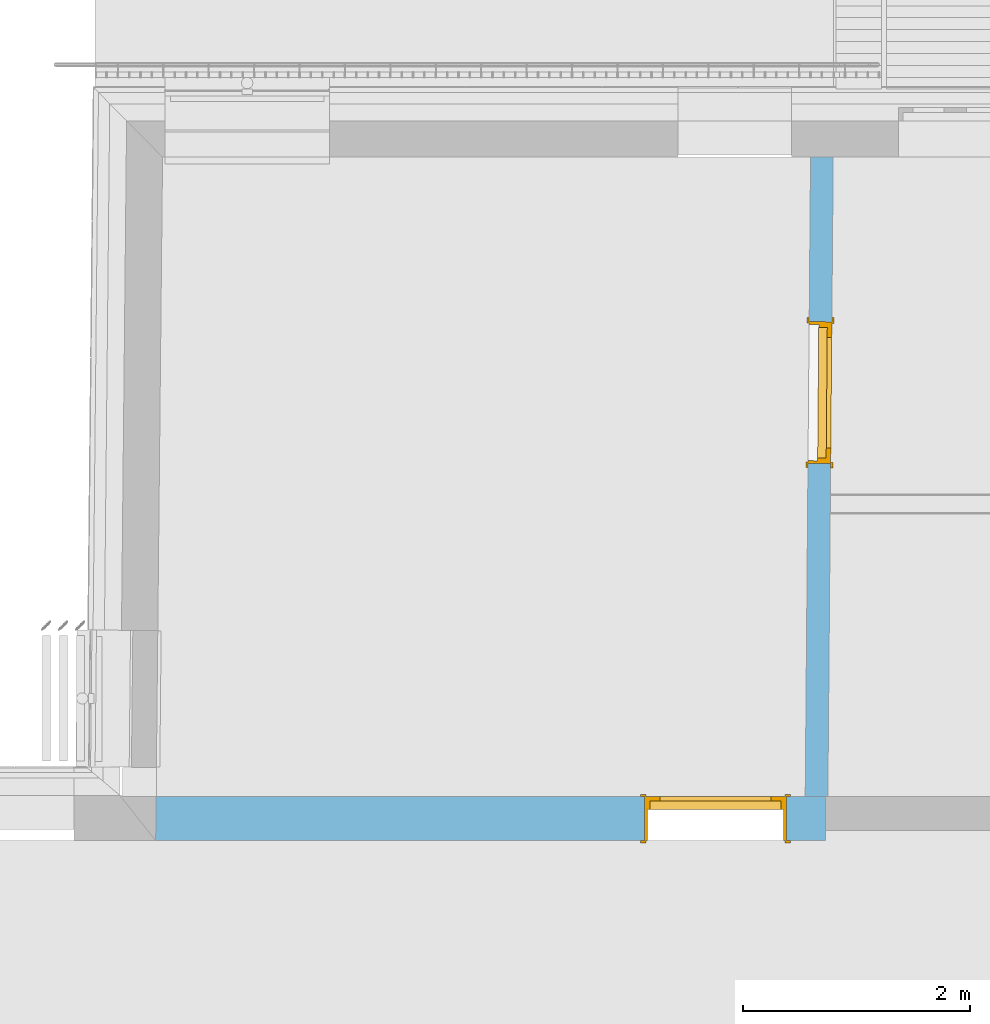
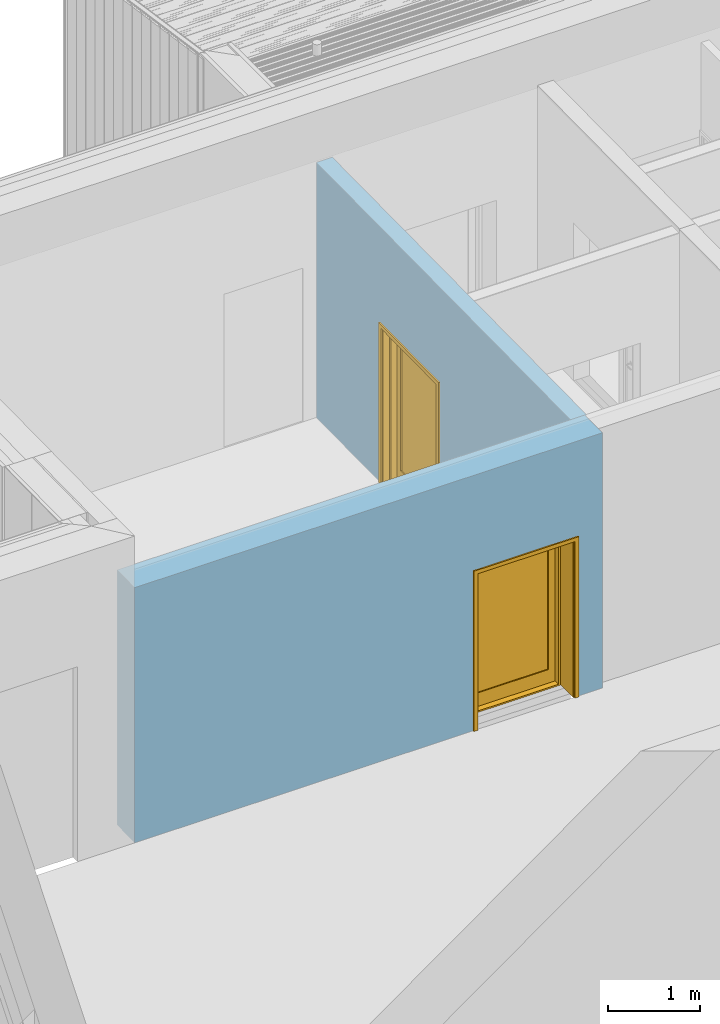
# One storey, part 90 of 418: 2 doors, 2 openings, plus 2 elements that do not belong to this part.
"""IFC2X3 building model written with IfcOpenShell, lengths in millimetres."""

from ifc_helpers import new_model, entity, si_unit, converted_unit, derived_unit, money_unit, direction, frame, origin_with_axes, origin_2d_with_axis, place, context, subcontext, project, spatial, polyline, rectangle, outline, extrude, open_shell, faceted_brep, surface_model, material, layer, layer_set, layer_usage, type_object, element, fill, save


model = new_model("IFC2X3")

# Units and contexts
model_context = context("Model", 3, precision=0.01, world=origin_with_axes(), true_north=direction((0.0, 1.0)))
body_context = subcontext(model_context, "Body", "Model", "MODEL_VIEW")
ifc_project = project(units=[si_unit("LENGTHUNIT", "METRE", prefix="MILLI"), si_unit("AREAUNIT", "SQUARE_METRE"), si_unit("VOLUMEUNIT", "CUBIC_METRE"), converted_unit("PLANEANGLEUNIT", "DEGREE", entity("IfcPlaneAngleMeasure", 0.0174532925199), si_unit("PLANEANGLEUNIT", "RADIAN"), dimensions=[0, 0, 0, 0, 0, 0, 0]), si_unit("SOLIDANGLEUNIT", "STERADIAN"), money_unit("EUR"), converted_unit("TIMEUNIT", "Year", entity("IfcTimeMeasure", 31556926.0), si_unit("TIMEUNIT", "SECOND"), dimensions=[0, 0, 1, 0, 0, 0, 0]), si_unit("MASSUNIT", "GRAM", prefix="KILO"), si_unit("THERMODYNAMICTEMPERATUREUNIT", "DEGREE_CELSIUS"), si_unit("LUMINOUSINTENSITYUNIT", "LUMEN"), si_unit("ENERGYUNIT", "JOULE", prefix="MEGA"), derived_unit("THERMALCONDUCTANCEUNIT", [(si_unit("POWERUNIT", "WATT"), 1), (si_unit("LENGTHUNIT", "METRE"), -1), (si_unit("THERMODYNAMICTEMPERATUREUNIT", "KELVIN"), -1)]), derived_unit("SPECIFICHEATCAPACITYUNIT", [(si_unit("ENERGYUNIT", "JOULE"), 1), (si_unit("MASSUNIT", "GRAM", prefix="KILO"), -1), (si_unit("THERMODYNAMICTEMPERATUREUNIT", "KELVIN"), -1)]), derived_unit("MASSDENSITYUNIT", [(si_unit("MASSUNIT", "GRAM", prefix="KILO"), 1), (si_unit("VOLUMEUNIT", "CUBIC_METRE"), -1)])], contexts=[model_context])

# Site, building, storey
site_placement = place(None, origin_with_axes())
site = spatial("IfcSite", under=ifc_project, at=site_placement, Name="Paldiski mnt 245/1, Tallinn, Harjumaa", CompositionType="COMPLEX")
building_placement = place(site_placement, origin_with_axes())
building = spatial("IfcBuilding", under=site, at=building_placement, Name="RKAS Hoone üldnimetus (kasutust iseloomustav) -> IFC Project Manager -> SOLIBRI", CompositionType="ELEMENT")
storey_placement = place(building_placement, origin_with_axes())
storey = spatial("IfcBuildingStorey", under=building, at=storey_placement, Name="Esimene korrus", CompositionType="ELEMENT", Elevation=0.0)

# Wall, opening, door
ifc_material = material(Name="Olemasolev silikaltsiitplokk")
ifc_layer_1 = layer(ifc_material, 390.0, ventilated="UNKNOWN")
ifc_layer_set_1 = layer_set([ifc_layer_1], Name="Olemasolev silikaltsiitplokk 390")
ifc_layer_usage_1 = layer_usage(ifc_layer_set_1, "AXIS2", "NEGATIVE", 0.0)
wall_type_1 = type_object("IfcWallType", Name="Olemasolev silikaltsiitplokk 390", PredefinedType="NOTDEFINED")
wall_1_placement = place(storey_placement, frame((-59386.0680847, 30139.8287244, 0.0), z_axis=(0.0, 0.0, 1.0), x_axis=(1.0, 0.0, 0.0)))
wall_1 = element("IfcWallStandardCase", 1, at=wall_1_placement, inside=storey, type_object=wall_type_1, material=ifc_layer_usage_1, Name="SS-02", context=body_context, shape_type="SweptSolid", body=[
    extrude(outline(polyline([(-3.93191533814, -390.0), (5896.06808466, -390.0), (5896.06808466, 0.0), (0.0, 0.0), (-3.93191533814, -390.0)])), origin_with_axes(), (0.0, 0.0, 1.0), 3400.80687192),
])
opening_1_placement = place(wall_1_placement, frame((4926.11364736, -1.13686837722e-10, 0.0), z_axis=(0.0, 0.0, 1.0), x_axis=(1.0, 0.0, 0.0)))
opening_1 = element("IfcOpeningElement", 2, at=opening_1_placement, cuts=wall_1, Name="SU-12v", context=body_context, shape_type="SweptSolid", body=[
    extrude(rectangle(XDim=1250.0, YDim=2100.0, at=origin_2d_with_axis()), frame((0.0, -390.0, 1050.0), z_axis=(0.0, 1.0, 0.0), x_axis=(1.0, 0.0, 0.0)), (0.0, 0.0, 1.0), 1170.0),
    extrude(rectangle(XDim=1324.0, YDim=2137.0, at=origin_2d_with_axis()), frame((0.0, -390.0, 1068.5), z_axis=(0.0, 1.0, 0.0), x_axis=(1.0, 0.0, 0.0)), (0.0, 0.0, -1.0), 390.0),
    extrude(rectangle(XDim=1324.0, YDim=2137.0, at=origin_2d_with_axis()), frame((0.0, 1.13686837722e-10, 1068.5), z_axis=(0.0, -1.0, 0.0), x_axis=(1.0, 0.0, 0.0)), (0.0, 0.0, -1.0), 390.0),
])
door_style_1 = type_object("IfcDoorStyle", Name="Door 23", ConstructionType="NOTDEFINED", OperationType="SINGLE_SWING_RIGHT", ParameterTakesPrecedence=False, Sizeable=False)
door_1_placement = place(opening_1_placement, frame((-625.0, 0.0, 0.0), z_axis=(0.0, 0.0, 1.0), x_axis=(1.0, 0.0, 0.0)))
door_1 = element("IfcDoor", 3, at=door_1_placement, inside=storey, type_object=door_style_1, Name="SU-12v", ObjectType="DOOR", OverallHeight=2100.0, OverallWidth=1250.0, context=body_context, shape_type="SurfaceModel", body=[
    faceted_brep([(1212.0, -39.9999999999, 0.0), (1212.0, -39.9999999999, 20.0), (1200.0, -39.9999999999, 20.0), (1200.0, -39.9999999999, 0.0), (38.0, -39.9999999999, 0.0), (38.0, -39.9999999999, 20.0), (50.0, -39.9999999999, 20.0), (50.0, -115.0, 20.0), (1200.0, -115.0, 20.0), (1200.0, -115.0, 0.0), (50.0, -115.0, 0.0), (50.0, -39.9999999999, 0.0)], [[[0, 1, 2, 3]], [[4, 5, 1, 0]], [[1, 5, 6, 7, 8, 2]], [[3, 2, 8, 9]], [[0, 3, 9, 10, 11, 4]], [[11, 6, 5, 4]], [[10, 7, 6, 11]], [[9, 8, 7, 10]]]),
    faceted_brep([(0.0, -115.0, 0.0), (25.0, -115.0, 0.0), (25.0, -390.0, 0.0), (0.0, -390.0, 0.0), (0.0, -115.0, 2100.0), (25.0, -115.0, 2075.0), (25.0, -390.0, 2075.0), (0.0, -390.0, 2100.0)], [[[0, 1, 2, 3]], [[0, 4, 5, 1]], [[1, 5, 6, 2]], [[3, 2, 6, 7]], [[4, 0, 3, 7]], [[5, 4, 7, 6]]]),
    faceted_brep([(1250.0, -115.0, 2100.0), (1225.0, -115.0, 2075.0), (1225.0, -390.0, 2075.0), (1250.0, -390.0, 2100.0), (1250.0, -115.0, 0.0), (1225.0, -115.0, 0.0), (1225.0, -390.0, 0.0), (1250.0, -390.0, 0.0)], [[[0, 1, 2, 3]], [[0, 4, 5, 1]], [[1, 5, 6, 2]], [[3, 2, 6, 7]], [[4, 0, 3, 7]], [[5, 4, 7, 6]]]),
    faceted_brep([(25.0, -115.0, 2075.0), (1225.0, -115.0, 2075.0), (1225.0, -390.0, 2075.0), (25.0, -390.0, 2075.0), (0.0, -115.0, 2100.0), (1250.0, -115.0, 2100.0), (1250.0, -390.0, 2100.0), (0.0, -390.0, 2100.0)], [[[0, 1, 2, 3]], [[0, 4, 5, 1]], [[1, 5, 6, 2]], [[3, 2, 6, 7]], [[4, 0, 3, 7]], [[5, 4, 7, 6]]]),
    faceted_brep([(-37.0, -409.0, 0.0), (-37.0, -390.0, 0.0), (13.0, -390.0, 0.0), (13.0, -409.0, 0.0), (-37.0, -409.0, 2137.0), (-37.0, -390.0, 2137.0), (13.0, -390.0, 2087.0), (13.0, -409.0, 2087.0)], [[[0, 1, 2, 3]], [[4, 5, 1, 0]], [[1, 5, 6, 2]], [[3, 2, 6, 7]], [[0, 3, 7, 4]], [[7, 6, 5, 4]]]),
    faceted_brep([(1287.0, -409.0, 2137.0), (1287.0, -390.0, 2137.0), (1237.0, -390.0, 2087.0), (1237.0, -409.0, 2087.0), (1287.0, -409.0, 0.0), (1287.0, -390.0, 0.0), (1237.0, -390.0, 0.0), (1237.0, -409.0, 0.0)], [[[0, 1, 2, 3]], [[4, 5, 1, 0]], [[1, 5, 6, 2]], [[3, 2, 6, 7]], [[0, 3, 7, 4]], [[7, 6, 5, 4]]]),
    faceted_brep([(-37.0, -409.0, 2137.0), (-37.0, -390.0, 2137.0), (13.0, -390.0, 2087.0), (13.0, -409.0, 2087.0), (1287.0, -409.0, 2137.0), (1287.0, -390.0, 2137.0), (1237.0, -390.0, 2087.0), (1237.0, -409.0, 2087.0)], [[[0, 1, 2, 3]], [[4, 5, 1, 0]], [[1, 5, 6, 2]], [[3, 2, 6, 7]], [[0, 3, 7, 4]], [[7, 6, 5, 4]]]),
    faceted_brep([(-37.0, 19.0000000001, 0.0), (13.0, 19.0000000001, 0.0), (13.0, 0.0, 0.0), (-37.0, 0.0, 0.0), (-37.0, 19.0000000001, 2137.0), (13.0, 19.0000000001, 2087.0), (13.0, 0.0, 2087.0), (-37.0, 0.0, 2137.0)], [[[0, 1, 2, 3]], [[0, 4, 5, 1]], [[1, 5, 6, 2]], [[3, 2, 6, 7]], [[4, 0, 3, 7]], [[5, 4, 7, 6]]]),
    faceted_brep([(1287.0, 19.0000000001, 2137.0), (1237.0, 19.0000000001, 2087.0), (1237.0, 1.27897692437e-10, 2087.0), (1287.0, 1.27897692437e-10, 2137.0), (1287.0, 19.0000000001, 0.0), (1237.0, 19.0000000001, 0.0), (1237.0, 1.27897692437e-10, 0.0), (1287.0, 1.27897692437e-10, 0.0)], [[[0, 1, 2, 3]], [[0, 4, 5, 1]], [[1, 5, 6, 2]], [[3, 2, 6, 7]], [[4, 0, 3, 7]], [[5, 4, 7, 6]]]),
    faceted_brep([(-37.0, 19.0000000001, 2137.0), (13.0, 19.0000000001, 2087.0), (13.0, 0.0, 2087.0), (-37.0, 0.0, 2137.0), (1287.0, 19.0000000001, 2137.0), (1237.0, 19.0000000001, 2087.0), (1237.0, 1.27897692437e-10, 2087.0), (1287.0, 1.27897692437e-10, 2137.0)], [[[0, 1, 2, 3]], [[0, 4, 5, 1]], [[1, 5, 6, 2]], [[3, 2, 6, 7]], [[4, 0, 3, 7]], [[5, 4, 7, 6]]]),
    faceted_brep([(50.0, -39.9999999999, 0.0), (50.0, -39.9999999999, 2050.0), (50.0, -115.0, 2050.0), (50.0, -115.0, 0.0), (38.0, -39.9999999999, 2050.0), (38.0, -39.9999999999, 0.0), (38.0, 0.0, 2050.0), (0.0, 0.0, 2050.0), (0.0, -115.0, 2050.0), (0.0, -115.0, 0.0), (0.0, 0.0, 0.0), (38.0, 0.0, 0.0)], [[[0, 1, 2, 3]], [[4, 1, 0, 5]], [[4, 6, 7, 8, 2, 1]], [[3, 2, 8, 9]], [[5, 0, 3, 9, 10, 11]], [[6, 4, 5, 11]], [[6, 11, 10, 7]], [[10, 9, 8, 7]]]),
    faceted_brep([(1212.0, -39.9999999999, 2050.0), (1200.0, -39.9999999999, 2050.0), (1200.0, -115.0, 2050.0), (1250.0, -115.0, 2050.0), (1250.0, 1.27897692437e-10, 2050.0), (1212.0, 1.27897692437e-10, 2050.0), (1212.0, -39.9999999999, 0.0), (1200.0, -39.9999999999, 0.0), (1200.0, -115.0, 0.0), (1250.0, -115.0, 0.0), (1250.0, 1.27897692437e-10, 0.0), (1212.0, 1.27897692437e-10, 0.0)], [[[0, 1, 2, 3, 4, 5]], [[1, 0, 6, 7]], [[1, 7, 8, 2]], [[3, 2, 8, 9]], [[4, 3, 9, 10]], [[11, 5, 4, 10]], [[0, 5, 11, 6]], [[6, 11, 10, 9, 8, 7]]]),
    faceted_brep([(38.0, 0.0, 2062.0), (38.0, 0.0, 2050.0), (0.0, 0.0, 2050.0), (0.0, 0.0, 2100.0), (1250.0, 1.27897692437e-10, 2100.0), (1250.0, 1.27897692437e-10, 2050.0), (1212.0, 1.27897692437e-10, 2050.0), (1212.0, 1.27897692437e-10, 2062.0), (38.0, -39.9999999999, 2062.0), (38.0, -39.9999999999, 2050.0), (50.0, -39.9999999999, 2050.0), (50.0, -115.0, 2050.0), (0.0, -115.0, 2050.0), (0.0, -115.0, 2100.0), (1250.0, -115.0, 2100.0), (1250.0, -115.0, 2050.0), (1212.0, -39.9999999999, 2050.0), (1200.0, -115.0, 2050.0), (1200.0, -39.9999999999, 2050.0), (1212.0, -39.9999999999, 2062.0)], [[[0, 1, 2, 3, 4, 5, 6, 7]], [[1, 0, 8, 9]], [[9, 10, 11, 12, 2, 1]], [[2, 12, 13, 3]], [[3, 13, 14, 4]], [[4, 14, 15, 5]], [[16, 6, 5, 15, 17, 18]], [[7, 6, 16, 19]], [[0, 7, 19, 8]], [[16, 18, 10, 9, 8, 19]], [[10, 18, 17, 11]], [[17, 15, 14, 13, 12, 11]]]),
    faceted_brep([(1212.0, 1.27897692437e-10, 200.0), (1212.0, -39.9999999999, 200.0), (1112.0, -39.9999999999, 200.0), (1112.0, 1.24344978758e-10, 200.0), (1212.0, 1.27897692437e-10, 1962.0), (1212.0, -39.9999999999, 1962.0), (1112.0, -39.9999999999, 1962.0), (1112.0, 1.24344978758e-10, 1962.0)], [[[0, 1, 2, 3]], [[4, 5, 1, 0]], [[1, 5, 6, 2]], [[3, 2, 6, 7]], [[0, 3, 7, 4]], [[7, 6, 5, 4]]]),
    faceted_brep([(38.0, 0.0, 200.0), (38.0, -39.9999999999, 200.0), (38.0, -39.9999999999, 1962.0), (38.0, 0.0, 1962.0), (138.0, 1.03028696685e-10, 200.0), (138.0, -39.9999999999, 200.0), (138.0, -39.9999999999, 1962.0), (138.0, 1.03028696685e-10, 1962.0)], [[[0, 1, 2, 3]], [[4, 5, 1, 0]], [[1, 5, 6, 2]], [[3, 2, 6, 7]], [[0, 3, 7, 4]], [[7, 6, 5, 4]]]),
    faceted_brep([(1212.0, 1.27897692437e-10, 0.0), (1212.0, -39.9999999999, 0.0), (38.0, -39.9999999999, 0.0), (38.0, 0.0, 0.0), (1212.0, 1.27897692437e-10, 200.0), (1212.0, -39.9999999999, 200.0), (1112.0, -39.9999999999, 200.0), (138.0, -39.9999999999, 200.0), (38.0, -39.9999999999, 200.0), (38.0, 0.0, 200.0), (138.0, 1.03028696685e-10, 200.0), (1112.0, 1.24344978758e-10, 200.0)], [[[0, 1, 2, 3]], [[4, 5, 1, 0]], [[1, 5, 6, 7, 8, 2]], [[3, 2, 8, 9]], [[0, 3, 9, 10, 11, 4]], [[11, 6, 5, 4]], [[10, 7, 6, 11]], [[9, 8, 7, 10]]]),
    faceted_brep([(1212.0, 1.27897692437e-10, 2062.0), (1212.0, -39.9999999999, 2062.0), (1212.0, -39.9999999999, 1962.0), (1212.0, 1.27897692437e-10, 1962.0), (38.0, 0.0, 2062.0), (38.0, -39.9999999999, 2062.0), (38.0, -39.9999999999, 1962.0), (138.0, -39.9999999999, 1962.0), (1112.0, -39.9999999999, 1962.0), (1112.0, 1.24344978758e-10, 1962.0), (138.0, 1.03028696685e-10, 1962.0), (38.0, 0.0, 1962.0)], [[[0, 1, 2, 3]], [[4, 5, 1, 0]], [[1, 5, 6, 7, 8, 2]], [[3, 2, 8, 9]], [[0, 3, 9, 10, 11, 4]], [[11, 6, 5, 4]], [[10, 7, 6, 11]], [[9, 8, 7, 10]]]),
    surface_model("IfcShellBasedSurfaceModel", [(1112.0, -13.9999999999, 200.0), (138.0, -13.9999999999, 200.0), (138.0, -13.9999999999, 1962.0), (1112.0, -13.9999999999, 1962.0)], [open_shell([[[0, 1, 2, 3]]])]),
    surface_model("IfcShellBasedSurfaceModel", [(1112.0, -25.9999999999, 200.0), (1112.0, -25.9999999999, 1962.0), (138.0, -25.9999999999, 1962.0), (138.0, -25.9999999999, 200.0)], [open_shell([[[0, 1, 2, 3]]])]),
])
fill(opening_1, door_1)

ifc_layer_2 = layer(ifc_material, 200.0, ventilated="UNKNOWN")
ifc_layer_set_2 = layer_set([ifc_layer_2], Name="Olemasolev silikaltsiitplokk 200")
ifc_layer_usage_2 = layer_usage(ifc_layer_set_2, "AXIS2", "NEGATIVE", 0.0)
wall_type_2 = type_object("IfcWallType", Name="Olemasolev silikaltsiitplokk 200", PredefinedType="NOTDEFINED")
wall_2_placement = place(storey_placement, frame((-53669.9544373, 30139.8287244, 0.0), z_axis=(0.0, 0.0, 1.0), x_axis=(0.00837214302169, 0.999964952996, 0.0)))
wall_2 = element("IfcWallStandardCase", 4, at=wall_2_placement, inside=storey, type_object=wall_type_2, material=ifc_layer_usage_2, Name="SS-03", context=body_context, shape_type="SweptSolid", body=[
    extrude(outline(polyline([(1.67448729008, -200.0), (5631.87180884, -200.0), (5630.19732155, 0.0), (0.0, 0.0), (1.67448729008, -200.0)])), origin_with_axes(), (0.0, 0.0, 1.0), 3400.80687192),
])
opening_2_placement = place(wall_2_placement, frame((3556.69180579, 0.0, 0.0), z_axis=(0.0, 0.0, 1.0), x_axis=(1.0, 0.0, 0.0)))
opening_2 = element("IfcOpeningElement", 5, at=opening_2_placement, cuts=wall_2, Name="SU-12v", context=body_context, shape_type="SweptSolid", body=[
    extrude(rectangle(XDim=1250.0, YDim=2100.0, at=origin_2d_with_axis()), frame((0.0, 200.0, 1050.0), z_axis=(0.0, -1.0, 0.0), x_axis=(-1.0, 0.0, 0.0)), (0.0, 0.0, 1.0), 600.0),
    extrude(rectangle(XDim=1324.0, YDim=2137.0, at=origin_2d_with_axis()), frame((0.0, 0.0, 1068.5), z_axis=(0.0, -1.0, 0.0), x_axis=(-1.0, 0.0, 0.0)), (0.0, 0.0, -1.0), 200.0),
    extrude(rectangle(XDim=1324.0, YDim=2137.0, at=origin_2d_with_axis()), frame((0.0, -200.0, 1068.5), z_axis=(0.0, 1.0, 0.0), x_axis=(-1.0, 0.0, 0.0)), (0.0, 0.0, -1.0), 200.0),
])
door_style_2 = type_object("IfcDoorStyle", Name="Door 23", ConstructionType="NOTDEFINED", OperationType="SINGLE_SWING_RIGHT", ParameterTakesPrecedence=False, Sizeable=False)
door_2_placement = place(opening_2_placement, frame((625.0, 0.0, 0.0), z_axis=(0.0, 0.0, 1.0), x_axis=(-1.0, 0.0, 0.0)))
door_2 = element("IfcDoor", 6, at=door_2_placement, inside=storey, type_object=door_style_2, Name="SU-12v", ObjectType="DOOR", OverallHeight=2100.0, OverallWidth=1250.0, context=body_context, shape_type="SurfaceModel", body=[
    faceted_brep([(1212.0, 160.0, 0.0), (1212.0, 160.0, 20.0), (1200.0, 160.0, 20.0), (1200.0, 160.0, 0.0), (38.0, 160.0, 0.0), (38.0, 160.0, 20.0), (50.0, 160.0, 20.0), (50.0, 85.0, 20.0), (1200.0, 85.0, 20.0), (1200.0, 85.0, 0.0), (50.0, 85.0, 0.0), (50.0, 160.0, 0.0)], [[[0, 1, 2, 3]], [[4, 5, 1, 0]], [[1, 5, 6, 7, 8, 2]], [[3, 2, 8, 9]], [[0, 3, 9, 10, 11, 4]], [[11, 6, 5, 4]], [[10, 7, 6, 11]], [[9, 8, 7, 10]]]),
    faceted_brep([(0.0, 85.0, 0.0), (25.0, 85.0, 0.0), (25.0, 0.0, 0.0), (0.0, 0.0, 0.0), (0.0, 85.0, 2100.0), (25.0, 85.0, 2075.0), (25.0, 0.0, 2075.0), (0.0, 0.0, 2100.0)], [[[0, 1, 2, 3]], [[0, 4, 5, 1]], [[1, 5, 6, 2]], [[3, 2, 6, 7]], [[4, 0, 3, 7]], [[5, 4, 7, 6]]]),
    faceted_brep([(1250.0, 85.0, 2100.0), (1225.0, 85.0, 2075.0), (1225.0, 0.0, 2075.0), (1250.0, 0.0, 2100.0), (1250.0, 85.0, 0.0), (1225.0, 85.0, 0.0), (1225.0, 0.0, 0.0), (1250.0, 0.0, 0.0)], [[[0, 1, 2, 3]], [[0, 4, 5, 1]], [[1, 5, 6, 2]], [[3, 2, 6, 7]], [[4, 0, 3, 7]], [[5, 4, 7, 6]]]),
    faceted_brep([(25.0, 85.0, 2075.0), (1225.0, 85.0, 2075.0), (1225.0, 0.0, 2075.0), (25.0, 0.0, 2075.0), (0.0, 85.0, 2100.0), (1250.0, 85.0, 2100.0), (1250.0, 0.0, 2100.0), (0.0, 0.0, 2100.0)], [[[0, 1, 2, 3]], [[0, 4, 5, 1]], [[1, 5, 6, 2]], [[3, 2, 6, 7]], [[4, 0, 3, 7]], [[5, 4, 7, 6]]]),
    faceted_brep([(-37.0, -19.0, 0.0), (-37.0, 0.0, 0.0), (13.0, 0.0, 0.0), (13.0, -19.0, 0.0), (-37.0, -19.0, 2137.0), (-37.0, 0.0, 2137.0), (13.0, 0.0, 2087.0), (13.0, -19.0, 2087.0)], [[[0, 1, 2, 3]], [[4, 5, 1, 0]], [[1, 5, 6, 2]], [[3, 2, 6, 7]], [[0, 3, 7, 4]], [[7, 6, 5, 4]]]),
    faceted_brep([(1287.0, -19.0, 2137.0), (1287.0, 0.0, 2137.0), (1237.0, 0.0, 2087.0), (1237.0, -19.0, 2087.0), (1287.0, -19.0, 0.0), (1287.0, 0.0, 0.0), (1237.0, 0.0, 0.0), (1237.0, -19.0, 0.0)], [[[0, 1, 2, 3]], [[4, 5, 1, 0]], [[1, 5, 6, 2]], [[3, 2, 6, 7]], [[0, 3, 7, 4]], [[7, 6, 5, 4]]]),
    faceted_brep([(-37.0, -19.0, 2137.0), (-37.0, 0.0, 2137.0), (13.0, 0.0, 2087.0), (13.0, -19.0, 2087.0), (1287.0, -19.0, 2137.0), (1287.0, 0.0, 2137.0), (1237.0, 0.0, 2087.0), (1237.0, -19.0, 2087.0)], [[[0, 1, 2, 3]], [[4, 5, 1, 0]], [[1, 5, 6, 2]], [[3, 2, 6, 7]], [[0, 3, 7, 4]], [[7, 6, 5, 4]]]),
    faceted_brep([(-37.0, 219.0, 0.0), (13.0, 219.0, 0.0), (13.0, 200.0, 0.0), (-37.0, 200.0, 0.0), (-37.0, 219.0, 2137.0), (13.0, 219.0, 2087.0), (13.0, 200.0, 2087.0), (-37.0, 200.0, 2137.0)], [[[0, 1, 2, 3]], [[0, 4, 5, 1]], [[1, 5, 6, 2]], [[3, 2, 6, 7]], [[4, 0, 3, 7]], [[5, 4, 7, 6]]]),
    faceted_brep([(1287.0, 219.0, 2137.0), (1237.0, 219.0, 2087.0), (1237.0, 200.0, 2087.0), (1287.0, 200.0, 2137.0), (1287.0, 219.0, 0.0), (1237.0, 219.0, 0.0), (1237.0, 200.0, 0.0), (1287.0, 200.0, 0.0)], [[[0, 1, 2, 3]], [[0, 4, 5, 1]], [[1, 5, 6, 2]], [[3, 2, 6, 7]], [[4, 0, 3, 7]], [[5, 4, 7, 6]]]),
    faceted_brep([(-37.0, 219.0, 2137.0), (13.0, 219.0, 2087.0), (13.0, 200.0, 2087.0), (-37.0, 200.0, 2137.0), (1287.0, 219.0, 2137.0), (1237.0, 219.0, 2087.0), (1237.0, 200.0, 2087.0), (1287.0, 200.0, 2137.0)], [[[0, 1, 2, 3]], [[0, 4, 5, 1]], [[1, 5, 6, 2]], [[3, 2, 6, 7]], [[4, 0, 3, 7]], [[5, 4, 7, 6]]]),
    faceted_brep([(50.0, 160.0, 0.0), (50.0, 160.0, 2050.0), (50.0, 85.0, 2050.0), (50.0, 85.0, 0.0), (38.0, 160.0, 2050.0), (38.0, 160.0, 0.0), (38.0, 200.0, 2050.0), (0.0, 200.0, 2050.0), (0.0, 85.0, 2050.0), (0.0, 85.0, 0.0), (0.0, 200.0, 0.0), (38.0, 200.0, 0.0)], [[[0, 1, 2, 3]], [[4, 1, 0, 5]], [[4, 6, 7, 8, 2, 1]], [[3, 2, 8, 9]], [[5, 0, 3, 9, 10, 11]], [[6, 4, 5, 11]], [[6, 11, 10, 7]], [[10, 9, 8, 7]]]),
    faceted_brep([(1212.0, 160.0, 2050.0), (1200.0, 160.0, 2050.0), (1200.0, 85.0, 2050.0), (1250.0, 85.0, 2050.0), (1250.0, 200.0, 2050.0), (1212.0, 200.0, 2050.0), (1212.0, 160.0, 0.0), (1200.0, 160.0, 0.0), (1200.0, 85.0, 0.0), (1250.0, 85.0, 0.0), (1250.0, 200.0, 0.0), (1212.0, 200.0, 0.0)], [[[0, 1, 2, 3, 4, 5]], [[1, 0, 6, 7]], [[1, 7, 8, 2]], [[3, 2, 8, 9]], [[4, 3, 9, 10]], [[11, 5, 4, 10]], [[0, 5, 11, 6]], [[6, 11, 10, 9, 8, 7]]]),
    faceted_brep([(38.0, 200.0, 2062.0), (38.0, 200.0, 2050.0), (0.0, 200.0, 2050.0), (0.0, 200.0, 2100.0), (1250.0, 200.0, 2100.0), (1250.0, 200.0, 2050.0), (1212.0, 200.0, 2050.0), (1212.0, 200.0, 2062.0), (38.0, 160.0, 2062.0), (38.0, 160.0, 2050.0), (50.0, 160.0, 2050.0), (50.0, 85.0, 2050.0), (0.0, 85.0, 2050.0), (0.0, 85.0, 2100.0), (1250.0, 85.0, 2100.0), (1250.0, 85.0, 2050.0), (1212.0, 160.0, 2050.0), (1200.0, 85.0, 2050.0), (1200.0, 160.0, 2050.0), (1212.0, 160.0, 2062.0)], [[[0, 1, 2, 3, 4, 5, 6, 7]], [[1, 0, 8, 9]], [[9, 10, 11, 12, 2, 1]], [[2, 12, 13, 3]], [[3, 13, 14, 4]], [[4, 14, 15, 5]], [[16, 6, 5, 15, 17, 18]], [[7, 6, 16, 19]], [[0, 7, 19, 8]], [[16, 18, 10, 9, 8, 19]], [[10, 18, 17, 11]], [[17, 15, 14, 13, 12, 11]]]),
    faceted_brep([(1212.0, 200.0, 200.0), (1212.0, 160.0, 200.0), (1112.0, 160.0, 200.0), (1112.0, 200.0, 200.0), (1212.0, 200.0, 1962.0), (1212.0, 160.0, 1962.0), (1112.0, 160.0, 1962.0), (1112.0, 200.0, 1962.0)], [[[0, 1, 2, 3]], [[4, 5, 1, 0]], [[1, 5, 6, 2]], [[3, 2, 6, 7]], [[0, 3, 7, 4]], [[7, 6, 5, 4]]]),
    faceted_brep([(38.0, 200.0, 200.0), (38.0, 160.0, 200.0), (38.0, 160.0, 1962.0), (38.0, 200.0, 1962.0), (138.0, 200.0, 200.0), (138.0, 160.0, 200.0), (138.0, 160.0, 1962.0), (138.0, 200.0, 1962.0)], [[[0, 1, 2, 3]], [[4, 5, 1, 0]], [[1, 5, 6, 2]], [[3, 2, 6, 7]], [[0, 3, 7, 4]], [[7, 6, 5, 4]]]),
    faceted_brep([(1212.0, 200.0, 0.0), (1212.0, 160.0, 0.0), (38.0, 160.0, 0.0), (38.0, 200.0, 0.0), (1212.0, 200.0, 200.0), (1212.0, 160.0, 200.0), (1112.0, 160.0, 200.0), (138.0, 160.0, 200.0), (38.0, 160.0, 200.0), (38.0, 200.0, 200.0), (138.0, 200.0, 200.0), (1112.0, 200.0, 200.0)], [[[0, 1, 2, 3]], [[4, 5, 1, 0]], [[1, 5, 6, 7, 8, 2]], [[3, 2, 8, 9]], [[0, 3, 9, 10, 11, 4]], [[11, 6, 5, 4]], [[10, 7, 6, 11]], [[9, 8, 7, 10]]]),
    faceted_brep([(1212.0, 200.0, 2062.0), (1212.0, 160.0, 2062.0), (1212.0, 160.0, 1962.0), (1212.0, 200.0, 1962.0), (38.0, 200.0, 2062.0), (38.0, 160.0, 2062.0), (38.0, 160.0, 1962.0), (138.0, 160.0, 1962.0), (1112.0, 160.0, 1962.0), (1112.0, 200.0, 1962.0), (138.0, 200.0, 1962.0), (38.0, 200.0, 1962.0)], [[[0, 1, 2, 3]], [[4, 5, 1, 0]], [[1, 5, 6, 7, 8, 2]], [[3, 2, 8, 9]], [[0, 3, 9, 10, 11, 4]], [[11, 6, 5, 4]], [[10, 7, 6, 11]], [[9, 8, 7, 10]]]),
    surface_model("IfcShellBasedSurfaceModel", [(1112.0, 186.0, 200.0), (138.0, 186.0, 200.0), (138.0, 186.0, 1962.0), (1112.0, 186.0, 1962.0)], [open_shell([[[0, 1, 2, 3]]])]),
    surface_model("IfcShellBasedSurfaceModel", [(1112.0, 174.0, 200.0), (1112.0, 174.0, 1962.0), (138.0, 174.0, 1962.0), (138.0, 174.0, 200.0)], [open_shell([[[0, 1, 2, 3]]])]),
])
fill(opening_2, door_2)

save(model, "model.ifc")
